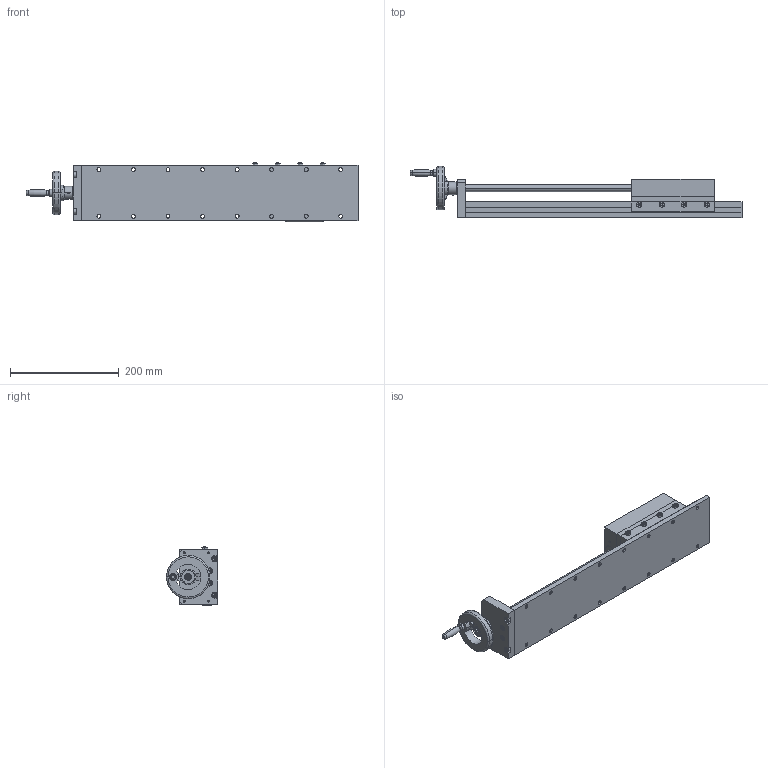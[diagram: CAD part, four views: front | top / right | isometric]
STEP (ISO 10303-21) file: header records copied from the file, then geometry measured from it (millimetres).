
FILE_DESCRIPTION (( 'STEP AP214' ), '1' );
FILE_NAME ('SW04-SL06-BL20-LS.STEP', '2011-11-04T18:48:09', ( '' ), ( '' ), 'SwSTEP 2.0', 'SolidWorks 2011', '' );
FILE_SCHEMA (( 'AUTOMOTIVE_DESIGN' ));
Length unit declared in the file: inch
Products named in the file (27): spring pin slotted_ai_SPS 0.125x1; socket head cap screw_ai_HX-SHCS 0.19-32x0.5x0.5-N; AHTNK80; EW-10; socket head cap screw_ai_HX-SHCS 0.25-20x0.75x0.75-N; 7806K64; Gen2 End Plate_04 EPLATE; socket head cap screw_ai_HX-SHCS 0.25-20x0.5x0.5-N; EW-20; Lead Screw_1_2-10 x 14.88 Lg; spring pin slotted_ai_SPS 0.1875x1.25; Lead Nut_1_2-10; Gen2 Nut Plate_04x06 NPLATE; Gen2 SLIDE_SW04-SL06-BL20; Gen2 SADDLE_04x06 SADDLE; machine screw nut hex_ai_MSHXNUT 0.190-32-D-N; socket set screw cup point_ai_SSCUPSKT 0.19-32x0.875-HX-N; Tag; Gen2 Bar_04x06 BAR; Gen2 Adj Gib_04x06 ADJ GIB; Gen2 Gib_04x06 GIB; Gen2 Top plate_04x06 TPLATE; Gen2 BASE_04x20 BASE; Gen2 Hardplate_04x20 HPLATE; Gen2 Baseplate_04x20 BASE; SW04-SL06-BL20-LS; socket head cap screw_ai_HX-SHCS 0.25-20x1.25x1.25-N
Assembly tree (39 placements, depth 4):
  SW04-SL06-BL20-LS
    socket head cap screw_ai_HX-SHCS 0.25-20x0.75x0.75-N  x4
    socket head cap screw_ai_HX-SHCS 0.25-20x1.25x1.25-N  x4
    Lead Screw_1_2-10 x 14.88 Lg
    spring pin slotted_ai_SPS 0.1875x1.25
    Gen2 SLIDE_SW04-SL06-BL20
      Gen2 SADDLE_04x06 SADDLE
        Gen2 Gib_04x06 GIB
        socket set screw cup point_ai_SSCUPSKT 0.19-32x0.875-HX-N  x4
        machine screw nut hex_ai_MSHXNUT 0.190-32-D-N  x4
        Gen2 Adj Gib_04x06 ADJ GIB
        Gen2 Top plate_04x06 TPLATE
        Tag
        Gen2 Bar_04x06 BAR
      Gen2 BASE_04x20 BASE
        Gen2 Hardplate_04x20 HPLATE
        Gen2 Baseplate_04x20 BASE
    7806K64  x2
    Gen2 Nut Plate_04x06 NPLATE
    spring pin slotted_ai_SPS 0.125x1
    EW-20
    AHTNK80
    Lead Nut_1_2-10
    EW-10
    socket head cap screw_ai_HX-SHCS 0.19-32x0.5x0.5-N
    Gen2 End Plate_04 EPLATE
    socket head cap screw_ai_HX-SHCS 0.25-20x0.5x0.5-N
Bounding box: 610.3 x 93.97 x 109.14 mm (x, y, z)
Volume: 1935133.3 mm3; surface area: 447813.1 mm2
Topology: 57 solids, 57 shells, 1033 faces, 2442 edges, 1424 vertices
Faces by surface type: plane 384, cylinder 307, cone 202, bspline 84, torus 54, sphere 2
Entity records: 23637 total; most frequent: CARTESIAN_POINT 5745, DIRECTION 3472, ORIENTED_EDGE 3054, EDGE_CURVE 1527, AXIS2_PLACEMENT_3D 1379, VERTEX_POINT 970, EDGE_LOOP 845, VECTOR 714
